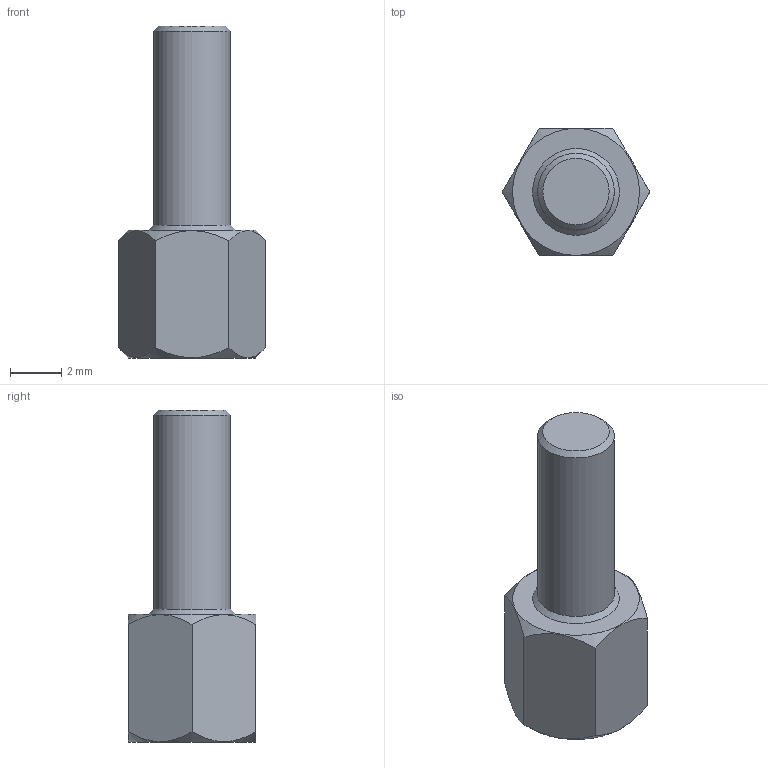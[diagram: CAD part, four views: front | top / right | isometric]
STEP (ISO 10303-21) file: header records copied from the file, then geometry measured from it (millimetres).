
FILE_DESCRIPTION(/* description */ ('','CAx-IF Rec.Pracs.---Representation and Presentation of Product Manufacturing Information (PMI)---4.0---2014-10-13'),/* implementation_level */ '2;1');
FILE_NAME(/* name */ 'G:\Alle CAD Daten\CAMTEC_2021_Pack and Go\PSU CPS-i3000 - CPS-i2000\2530165.stp',/* time_stamp */ '2020-09-15T17:26:00+02:00',/* author */ ('rryba'),/* organization */ (''),/* preprocessor_version */ 'ST-DEVELOPER v18.1',/* originating_system */ 'Autodesk Inventor 2021',/* authorisation */ '');
FILE_SCHEMA (('AP242_MANAGED_MODEL_BASED_3D_ENGINEERING_MIM_LF { 1 0 10303 442 1 1 4 }'));
Length unit declared in the file: millimetre
Products named in the file (1): 2530165
Bounding box: 5.77 x 5 x 13 mm (x, y, z)
Volume: 148.8 mm3; surface area: 226.8 mm2
Topology: 1 solids, 1 shells, 17 faces, 52 edges, 50 vertices
Faces by surface type: plane 9, cone 6, cylinder 2
Full cylindrical faces by diameter (mm): 2.156 x1, 3 x1
Entity records: 585 total; most frequent: CARTESIAN_POINT 130, ORIENTED_EDGE 76, DIRECTION 76, EDGE_CURVE 38, AXIS2_PLACEMENT_3D 31, VERTEX_POINT 25, EDGE_LOOP 19, STYLED_ITEM 17
